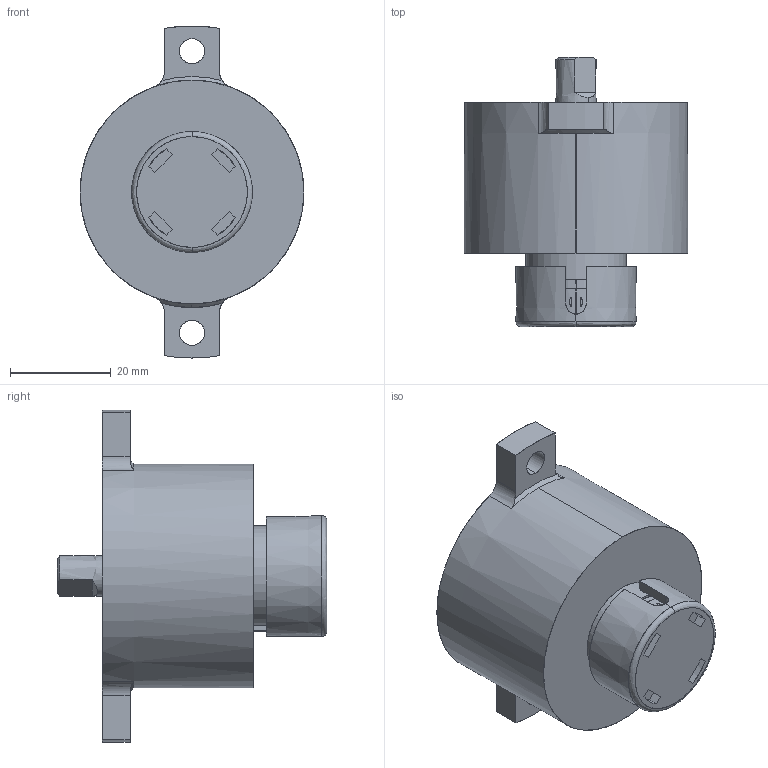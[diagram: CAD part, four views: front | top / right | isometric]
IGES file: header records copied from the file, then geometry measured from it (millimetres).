
Start section: SolidWorks IGES file using analytic representation for surfaces
Global section: file name: C:\3D-DATA\型式\R\【提出用】\IGS\FYN-H2-L.IGS; native system: SolidWorks 2014; preprocessor: SolidWorks 2014; author: flgijutsu; date: 140516.194124; units: millimetre
Bounding box: 44.5 x 53.6 x 66 mm (x, y, z)
Surface area: 10971.4 mm2 (no closed solid volume)
Topology: 0 solids, 0 shells, 90 faces, 1343 edges, 1343 vertices
Faces by surface type: bspline 52, revolution 38
